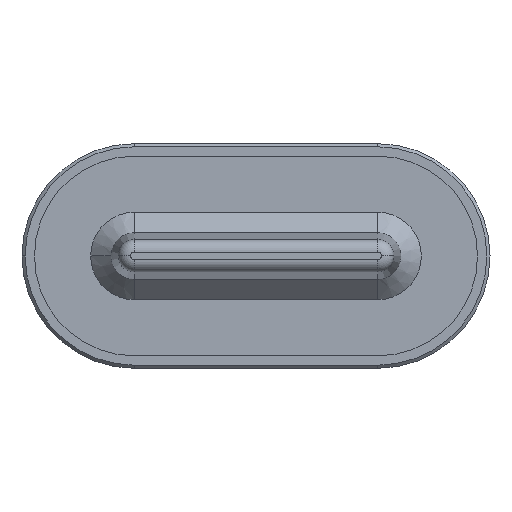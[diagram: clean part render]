
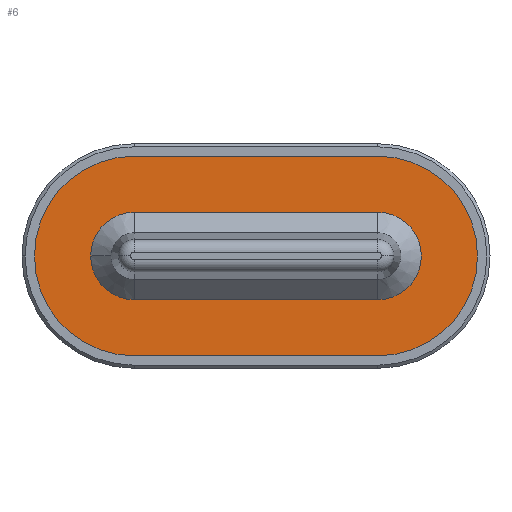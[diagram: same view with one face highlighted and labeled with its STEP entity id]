
A CAD part, top view. The second image highlights one B-rep face of the part: STEP entity #6.
In plain terms, the highlighted planar face has unit normal (0, 0, 1).
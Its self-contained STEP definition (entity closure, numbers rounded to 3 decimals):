
#6 = ADVANCED_FACE ( 'NONE', ( #335, #340 ), #899, .T. ) ;
#107 = ORIENTED_EDGE ( 'NONE', *, *, #1851, .T. ) ;
#109 = ORIENTED_EDGE ( 'NONE', *, *, #1942, .T. ) ;
#122 = ORIENTED_EDGE ( 'NONE', *, *, #1897, .T. ) ;
#127 = ORIENTED_EDGE ( 'NONE', *, *, #1938, .T. ) ;
#129 = ORIENTED_EDGE ( 'NONE', *, *, #1947, .T. ) ;
#133 = ORIENTED_EDGE ( 'NONE', *, *, #1924, .T. ) ;
#140 = ORIENTED_EDGE ( 'NONE', *, *, #1925, .T. ) ;
#158 = ORIENTED_EDGE ( 'NONE', *, *, #1932, .T. ) ;
#165 = ORIENTED_EDGE ( 'NONE', *, *, #1929, .T. ) ;
#167 = ORIENTED_EDGE ( 'NONE', *, *, #1911, .T. ) ;
#335 = FACE_BOUND ( 'NONE', #678, .T. ) ;
#340 = FACE_OUTER_BOUND ( 'NONE', #671, .T. ) ;
#403 = CIRCLE ( 'NONE', #1780, 16. ) ;
#486 = CIRCLE ( 'NONE', #1815, 7. ) ;
#497 = CIRCLE ( 'NONE', #1814, 7. ) ;
#507 = VECTOR ( 'NONE', #1365, 1000. ) ;
#512 = VECTOR ( 'NONE', #1394, 1000. ) ;
#513 = CIRCLE ( 'NONE', #1825, 16. ) ;
#520 = CIRCLE ( 'NONE', #1819, 16. ) ;
#522 = LINE ( 'NONE', #1396, #512 ) ;
#534 = CIRCLE ( 'NONE', #1833, 7. ) ;
#536 = LINE ( 'NONE', #1361, #507 ) ;
#541 = LINE ( 'NONE', #1419, #583 ) ;
#562 = VECTOR ( 'NONE', #1418, 1000. ) ;
#582 = LINE ( 'NONE', #1424, #562 ) ;
#583 = VECTOR ( 'NONE', #1410, 1000. ) ;
#671 = EDGE_LOOP ( 'NONE', ( #133, #158, #107, #109, #140 ) ) ;
#678 = EDGE_LOOP ( 'NONE', ( #129, #165, #167, #122, #127 ) ) ;
#693 = VERTEX_POINT ( 'NONE', #927 ) ;
#702 = VERTEX_POINT ( 'NONE', #916 ) ;
#705 = VERTEX_POINT ( 'NONE', #976 ) ;
#725 = VERTEX_POINT ( 'NONE', #982 ) ;
#746 = VERTEX_POINT ( 'NONE', #997 ) ;
#756 = VERTEX_POINT ( 'NONE', #1010 ) ;
#757 = VERTEX_POINT ( 'NONE', #964 ) ;
#762 = VERTEX_POINT ( 'NONE', #1022 ) ;
#765 = VERTEX_POINT ( 'NONE', #1026 ) ;
#777 = VERTEX_POINT ( 'NONE', #1056 ) ;
#892 = CARTESIAN_POINT ( 'NONE',  ( 0., 0., 2. ) ) ;
#899 = PLANE ( 'NONE',  #1757 ) ;
#900 = DIRECTION ( 'NONE',  ( 0., 0., 1. ) ) ;
#909 = DIRECTION ( 'NONE',  ( 1., 0., 0. ) ) ;
#916 = CARTESIAN_POINT ( 'NONE',  ( 39., 16., 2. ) ) ;
#927 = CARTESIAN_POINT ( 'NONE',  ( -7., 0., 2. ) ) ;
#964 = CARTESIAN_POINT ( 'NONE',  ( 0., -16., 2. ) ) ;
#976 = CARTESIAN_POINT ( 'NONE',  ( 0., -7., 2. ) ) ;
#982 = CARTESIAN_POINT ( 'NONE',  ( 39., -16., 2. ) ) ;
#997 = CARTESIAN_POINT ( 'NONE',  ( 0., 16., 2. ) ) ;
#1010 = CARTESIAN_POINT ( 'NONE',  ( 55., 0., 2. ) ) ;
#1022 = CARTESIAN_POINT ( 'NONE',  ( 39., 7., 2. ) ) ;
#1026 = CARTESIAN_POINT ( 'NONE',  ( 39., -7., 2. ) ) ;
#1056 = CARTESIAN_POINT ( 'NONE',  ( 0., 7., 2. ) ) ;
#1167 = DIRECTION ( 'NONE',  ( 1., 0., 0. ) ) ;
#1182 = CARTESIAN_POINT ( 'NONE',  ( 39., 0., 2. ) ) ;
#1192 = DIRECTION ( 'NONE',  ( 0., 0., 1. ) ) ;
#1296 = DIRECTION ( 'NONE',  ( 0., 0., -1. ) ) ;
#1318 = DIRECTION ( 'NONE',  ( 1., 0., 0. ) ) ;
#1319 = CARTESIAN_POINT ( 'NONE',  ( 0., 0., 2. ) ) ;
#1361 = CARTESIAN_POINT ( 'NONE',  ( 0., -7., 2. ) ) ;
#1365 = DIRECTION ( 'NONE',  ( -1., 0., 0. ) ) ;
#1368 = DIRECTION ( 'NONE',  ( 1., 0., 0. ) ) ;
#1369 = CARTESIAN_POINT ( 'NONE',  ( 39., 0., 2. ) ) ;
#1375 = DIRECTION ( 'NONE',  ( 1., 0., 0. ) ) ;
#1381 = CARTESIAN_POINT ( 'NONE',  ( 39., 0., 2. ) ) ;
#1382 = DIRECTION ( 'NONE',  ( 0., 0., 1. ) ) ;
#1383 = CARTESIAN_POINT ( 'NONE',  ( 0., 0., 2. ) ) ;
#1384 = DIRECTION ( 'NONE',  ( 1., 0., 0. ) ) ;
#1386 = DIRECTION ( 'NONE',  ( 0., 0., -1. ) ) ;
#1388 = DIRECTION ( 'NONE',  ( 0., 0., 1. ) ) ;
#1394 = DIRECTION ( 'NONE',  ( 1., 0., 0. ) ) ;
#1396 = CARTESIAN_POINT ( 'NONE',  ( 0., -16., 2. ) ) ;
#1408 = DIRECTION ( 'NONE',  ( 1., 0., 0. ) ) ;
#1410 = DIRECTION ( 'NONE',  ( 1., 0., 0. ) ) ;
#1412 = CARTESIAN_POINT ( 'NONE',  ( 0., 0., 2. ) ) ;
#1413 = DIRECTION ( 'NONE',  ( 0., 0., -1. ) ) ;
#1418 = DIRECTION ( 'NONE',  ( -1., 0., 0. ) ) ;
#1419 = CARTESIAN_POINT ( 'NONE',  ( 39., 7., 2. ) ) ;
#1424 = CARTESIAN_POINT ( 'NONE',  ( 0., 16., 2. ) ) ;
#1757 = AXIS2_PLACEMENT_3D ( 'NONE', #892, #900, #909 ) ;
#1780 = AXIS2_PLACEMENT_3D ( 'NONE', #1182, #1192, #1167 ) ;
#1814 = AXIS2_PLACEMENT_3D ( 'NONE', #1381, #1386, #1375 ) ;
#1815 = AXIS2_PLACEMENT_3D ( 'NONE', #1319, #1296, #1318 ) ;
#1819 = AXIS2_PLACEMENT_3D ( 'NONE', #1383, #1388, #1368 ) ;
#1825 = AXIS2_PLACEMENT_3D ( 'NONE', #1369, #1382, #1384 ) ;
#1833 = AXIS2_PLACEMENT_3D ( 'NONE', #1412, #1413, #1408 ) ;
#1851 = EDGE_CURVE ( 'NONE', #756, #702, #403, .T. ) ;
#1897 = EDGE_CURVE ( 'NONE', #705, #693, #486, .T. ) ;
#1911 = EDGE_CURVE ( 'NONE', #765, #705, #536, .T. ) ;
#1924 = EDGE_CURVE ( 'NONE', #757, #725, #522, .T. ) ;
#1925 = EDGE_CURVE ( 'NONE', #746, #757, #520, .T. ) ;
#1929 = EDGE_CURVE ( 'NONE', #762, #765, #497, .T. ) ;
#1932 = EDGE_CURVE ( 'NONE', #725, #756, #513, .T. ) ;
#1938 = EDGE_CURVE ( 'NONE', #693, #777, #534, .T. ) ;
#1942 = EDGE_CURVE ( 'NONE', #702, #746, #582, .T. ) ;
#1947 = EDGE_CURVE ( 'NONE', #777, #762, #541, .T. ) ;
